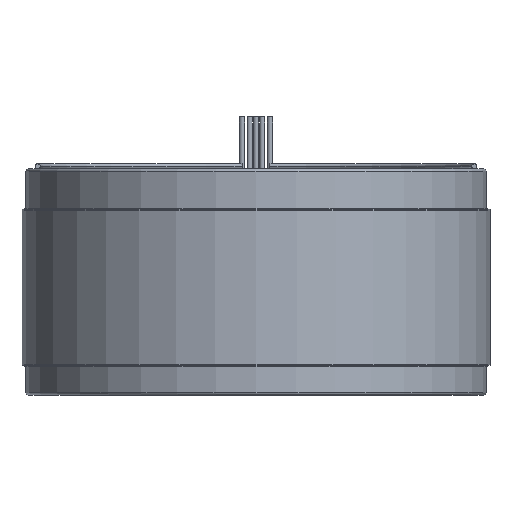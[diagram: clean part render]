
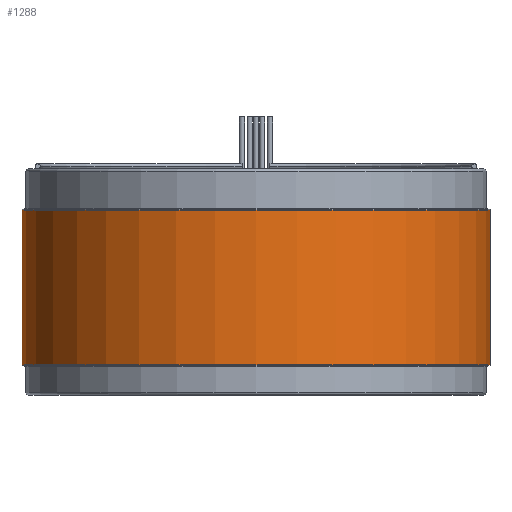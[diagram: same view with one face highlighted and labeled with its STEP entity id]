
A CAD part, front view. The second image highlights one B-rep face of the part: STEP entity #1288.
In plain terms, the highlighted cylindrical face has radius 114.3 mm (diameter 228.6 mm), a partial arc.
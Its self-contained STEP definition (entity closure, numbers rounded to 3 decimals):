
#34 = VECTOR ( 'NONE', #2539, 1000. ) ;
#115 = VERTEX_POINT ( 'NONE', #2325 ) ;
#160 = DIRECTION ( 'NONE',  ( 0., 0., 1. ) ) ;
#184 = CARTESIAN_POINT ( 'NONE',  ( 0., 0., -37.744 ) ) ;
#297 = ORIENTED_EDGE ( 'NONE', *, *, #2881, .T. ) ;
#354 = CARTESIAN_POINT ( 'NONE',  ( 114.3, 0., 37.744 ) ) ;
#367 = CARTESIAN_POINT ( 'NONE',  ( 0., 0., 37.744 ) ) ;
#432 = AXIS2_PLACEMENT_3D ( 'NONE', #184, #160, #2226 ) ;
#547 = EDGE_LOOP ( 'NONE', ( #1715, #2700, #297, #2751 ) ) ;
#566 = AXIS2_PLACEMENT_3D ( 'NONE', #367, #1966, #1286 ) ;
#720 = CIRCLE ( 'NONE', #432, 114.3 ) ;
#816 = DIRECTION ( 'NONE',  ( 0., 0., -1. ) ) ;
#1031 = VECTOR ( 'NONE', #816, 1000. ) ;
#1069 = DIRECTION ( 'NONE',  ( 1., 0., 0. ) ) ;
#1076 = DIRECTION ( 'NONE',  ( 0., 0., 1. ) ) ;
#1105 = LINE ( 'NONE', #1703, #1031 ) ;
#1169 = LINE ( 'NONE', #2754, #34 ) ;
#1286 = DIRECTION ( 'NONE',  ( -1., 0., 0. ) ) ;
#1288 = ADVANCED_FACE ( 'NONE', ( #2913 ), #1728, .T. ) ;
#1316 = CARTESIAN_POINT ( 'NONE',  ( -114.3, 0., 37.744 ) ) ;
#1680 = VERTEX_POINT ( 'NONE', #2631 ) ;
#1703 = CARTESIAN_POINT ( 'NONE',  ( 114.3, 0., 37.744 ) ) ;
#1712 = EDGE_CURVE ( 'NONE', #1792, #115, #1105, .T. ) ;
#1715 = ORIENTED_EDGE ( 'NONE', *, *, #1712, .F. ) ;
#1728 = CYLINDRICAL_SURFACE ( 'NONE', #566, 114.3 ) ;
#1792 = VERTEX_POINT ( 'NONE', #354 ) ;
#1811 = AXIS2_PLACEMENT_3D ( 'NONE', #2453, #1076, #1069 ) ;
#1877 = EDGE_CURVE ( 'NONE', #1935, #1792, #2744, .T. ) ;
#1935 = VERTEX_POINT ( 'NONE', #1316 ) ;
#1966 = DIRECTION ( 'NONE',  ( 0., 0., -1. ) ) ;
#2226 = DIRECTION ( 'NONE',  ( 1., 0., 0. ) ) ;
#2325 = CARTESIAN_POINT ( 'NONE',  ( 114.3, 0., -37.744 ) ) ;
#2453 = CARTESIAN_POINT ( 'NONE',  ( 0., 0., 37.744 ) ) ;
#2539 = DIRECTION ( 'NONE',  ( 0., 0., -1. ) ) ;
#2631 = CARTESIAN_POINT ( 'NONE',  ( -114.3, 0., -37.744 ) ) ;
#2700 = ORIENTED_EDGE ( 'NONE', *, *, #1877, .F. ) ;
#2722 = EDGE_CURVE ( 'NONE', #1680, #115, #720, .T. ) ;
#2744 = CIRCLE ( 'NONE', #1811, 114.3 ) ;
#2751 = ORIENTED_EDGE ( 'NONE', *, *, #2722, .T. ) ;
#2754 = CARTESIAN_POINT ( 'NONE',  ( -114.3, 0., 37.744 ) ) ;
#2881 = EDGE_CURVE ( 'NONE', #1935, #1680, #1169, .T. ) ;
#2913 = FACE_OUTER_BOUND ( 'NONE', #547, .T. ) ;
